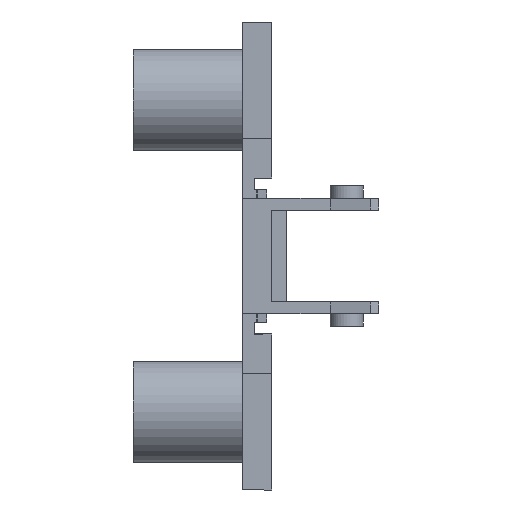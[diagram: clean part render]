
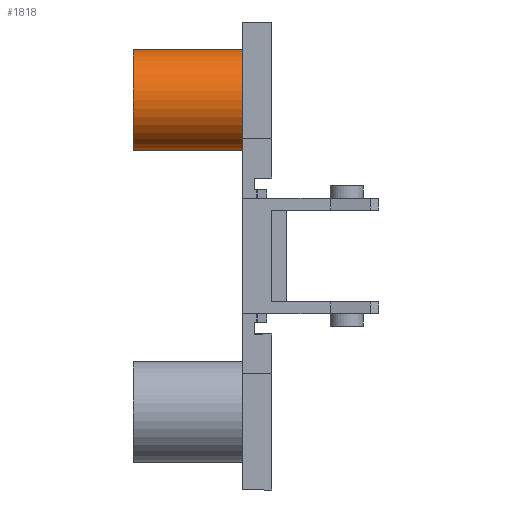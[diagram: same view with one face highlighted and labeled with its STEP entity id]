
A CAD part, front view. The second image highlights one B-rep face of the part: STEP entity #1818.
In plain terms, the highlighted cylindrical face has radius 5.2 mm (diameter 10.4 mm), a partial arc.
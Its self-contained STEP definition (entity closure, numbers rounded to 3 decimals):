
#317 = CARTESIAN_POINT ( 'NONE',  ( -11.2, 0., 16. ) ) ;
#320 = DIRECTION ( 'NONE',  ( -1., 0., 0. ) ) ;
#321 = DIRECTION ( 'NONE',  ( 0., 0., 1. ) ) ;
#387 = CARTESIAN_POINT ( 'NONE',  ( -11.2, 0., 21.2 ) ) ;
#388 = DIRECTION ( 'NONE',  ( 1., 0., 0. ) ) ;
#391 = CARTESIAN_POINT ( 'NONE',  ( -11.2, 0., 10.8 ) ) ;
#392 = DIRECTION ( 'NONE',  ( 1., 0., 0. ) ) ;
#832 = DIRECTION ( 'NONE',  ( 1., 0., 0. ) ) ;
#835 = DIRECTION ( 'NONE',  ( 0., 0., -1. ) ) ;
#840 = CARTESIAN_POINT ( 'NONE',  ( -11.2, 0., 16. ) ) ;
#1023 = CARTESIAN_POINT ( 'NONE',  ( 0., 0., 21.2 ) ) ;
#1027 = CARTESIAN_POINT ( 'NONE',  ( -11.2, 0., 21.2 ) ) ;
#1028 = CARTESIAN_POINT ( 'NONE',  ( -11.2, 0., 10.8 ) ) ;
#1029 = CARTESIAN_POINT ( 'NONE',  ( 0., 0., 10.8 ) ) ;
#1293 = AXIS2_PLACEMENT_3D ( 'NONE', #317, #320, #321 ) ;
#1367 = AXIS2_PLACEMENT_3D ( 'NONE', #840, #832, #835 ) ;
#1452 = EDGE_CURVE ( 'NONE', #2348, #2342, #3276, .T. ) ;
#1608 = EDGE_CURVE ( 'NONE', #2347, #2346, #3554, .T. ) ;
#1640 = EDGE_CURVE ( 'NONE', #2346, #2342, #1869, .T. ) ;
#1642 = EDGE_CURVE ( 'NONE', #2347, #2348, #1873, .T. ) ;
#1709 = AXIS2_PLACEMENT_3D ( 'NONE', #2468, #2469, #2470 ) ;
#1818 = ADVANCED_FACE ( 'NONE', ( #2154 ), #2150, .T. ) ;
#1869 = LINE ( 'NONE', #387, #1870 ) ;
#1870 = VECTOR ( 'NONE', #388, 1000. ) ;
#1873 = LINE ( 'NONE', #391, #1874 ) ;
#1874 = VECTOR ( 'NONE', #392, 1000. ) ;
#2150 = CYLINDRICAL_SURFACE ( 'NONE', #1367, 5.2 ) ;
#2154 = FACE_OUTER_BOUND ( 'NONE', #3032, .T. ) ;
#2342 = VERTEX_POINT ( 'NONE', #1023 ) ;
#2346 = VERTEX_POINT ( 'NONE', #1027 ) ;
#2347 = VERTEX_POINT ( 'NONE', #1028 ) ;
#2348 = VERTEX_POINT ( 'NONE', #1029 ) ;
#2468 = CARTESIAN_POINT ( 'NONE',  ( 0., 0., 16. ) ) ;
#2469 = DIRECTION ( 'NONE',  ( -1., 0., 0. ) ) ;
#2470 = DIRECTION ( 'NONE',  ( 0., 0., -1. ) ) ;
#3032 = EDGE_LOOP ( 'NONE', ( #3062, #3052, #3053, #3054 ) ) ;
#3052 = ORIENTED_EDGE ( 'NONE', *, *, #1608, .F. ) ;
#3053 = ORIENTED_EDGE ( 'NONE', *, *, #1642, .T. ) ;
#3054 = ORIENTED_EDGE ( 'NONE', *, *, #1452, .T. ) ;
#3062 = ORIENTED_EDGE ( 'NONE', *, *, #1640, .F. ) ;
#3276 = CIRCLE ( 'NONE', #1709, 5.2 ) ;
#3554 = CIRCLE ( 'NONE', #1293, 5.2 ) ;
